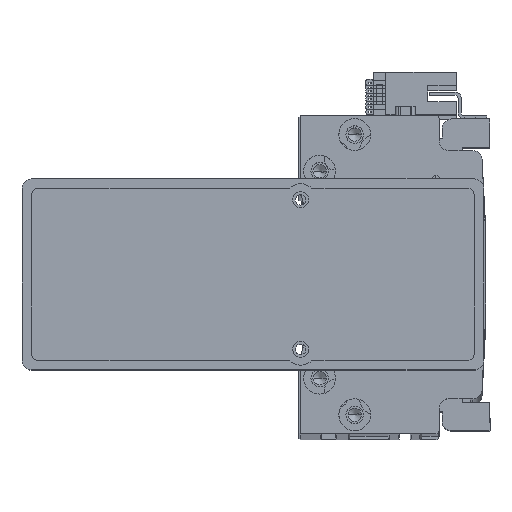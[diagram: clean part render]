
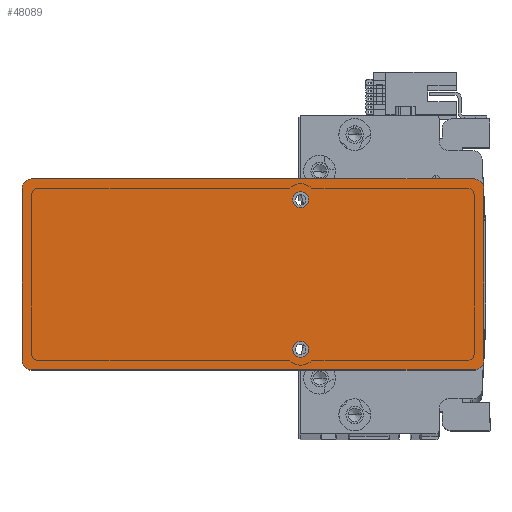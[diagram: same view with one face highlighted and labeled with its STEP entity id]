
A CAD part, top view. The second image highlights one B-rep face of the part: STEP entity #48089.
In plain terms, the highlighted planar face has unit normal (0, 0, 1) as drawn and (0, 0, -1) by its records, which use the part's own axes.
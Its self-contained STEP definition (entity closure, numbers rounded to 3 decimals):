
#384 = CARTESIAN_POINT ( 'NONE',  ( 69.5, -27., 0. ) ) ;
#604 = DIRECTION ( 'NONE',  ( 0., -1., 0. ) ) ;
#1273 = VECTOR ( 'NONE', #19549, 1000. ) ;
#1570 = AXIS2_PLACEMENT_3D ( 'NONE', #10724, #38092, #14631 ) ;
#1739 = DIRECTION ( 'NONE',  ( 0., 0., -1. ) ) ;
#1848 = CIRCLE ( 'NONE', #35471, 3. ) ;
#1947 = ORIENTED_EDGE ( 'NONE', *, *, #33359, .T. ) ;
#2590 = EDGE_CURVE ( 'NONE', #18987, #32767, #27750, .T. ) ;
#3014 = CIRCLE ( 'NONE', #24574, 2.5 ) ;
#3275 = FACE_BOUND ( 'NONE', #11251, .T. ) ;
#3332 = CARTESIAN_POINT ( 'NONE',  ( 12.5, 23.5, 0. ) ) ;
#3652 = EDGE_LOOP ( 'NONE', ( #37961, #8638, #6131, #27062, #38795, #27768, #35208, #1947 ) ) ;
#4281 = DIRECTION ( 'NONE',  ( 1., 0., 0. ) ) ;
#5688 = ORIENTED_EDGE ( 'NONE', *, *, #15037, .F. ) ;
#6131 = ORIENTED_EDGE ( 'NONE', *, *, #25252, .F. ) ;
#6701 = LINE ( 'NONE', #22102, #36599 ) ;
#6921 = VERTEX_POINT ( 'NONE', #47004 ) ;
#7384 = VERTEX_POINT ( 'NONE', #45757 ) ;
#8638 = ORIENTED_EDGE ( 'NONE', *, *, #9179, .T. ) ;
#8716 = VERTEX_POINT ( 'NONE', #43601 ) ;
#9046 = DIRECTION ( 'NONE',  ( 0., 0., -1. ) ) ;
#9179 = EDGE_CURVE ( 'NONE', #45157, #7384, #35297, .T. ) ;
#9380 = CIRCLE ( 'NONE', #36616, 3. ) ;
#10342 = EDGE_LOOP ( 'NONE', ( #5688, #46274 ) ) ;
#10724 = CARTESIAN_POINT ( 'NONE',  ( 15., 23.5, 0. ) ) ;
#11046 = VERTEX_POINT ( 'NONE', #25207 ) ;
#11251 = EDGE_LOOP ( 'NONE', ( #36202, #26867 ) ) ;
#11593 = CARTESIAN_POINT ( 'NONE',  ( -69.5, -27., 0. ) ) ;
#12287 = CARTESIAN_POINT ( 'NONE',  ( 0., 0., 0. ) ) ;
#12694 = DIRECTION ( 'NONE',  ( 0., 0., -1. ) ) ;
#12827 = CARTESIAN_POINT ( 'NONE',  ( -72.5, -27., 0. ) ) ;
#13613 = FACE_BOUND ( 'NONE', #10342, .T. ) ;
#14605 = CARTESIAN_POINT ( 'NONE',  ( 17.5, 23.5, 0. ) ) ;
#14631 = DIRECTION ( 'NONE',  ( -1., 0., 0. ) ) ;
#15037 = EDGE_CURVE ( 'NONE', #32767, #18987, #15246, .T. ) ;
#15246 = CIRCLE ( 'NONE', #16772, 2.5 ) ;
#15521 = DIRECTION ( 'NONE',  ( 1., 0., 0. ) ) ;
#15844 = DIRECTION ( 'NONE',  ( 0., 0., -1. ) ) ;
#16223 = DIRECTION ( 'NONE',  ( 1., 0., 0. ) ) ;
#16626 = CARTESIAN_POINT ( 'NONE',  ( 15., 23.5, 0. ) ) ;
#16772 = AXIS2_PLACEMENT_3D ( 'NONE', #16626, #43960, #20492 ) ;
#17074 = VECTOR ( 'NONE', #604, 1000. ) ;
#18262 = VERTEX_POINT ( 'NONE', #12827 ) ;
#18528 = CARTESIAN_POINT ( 'NONE',  ( 69.5, 30., 0. ) ) ;
#18593 = EDGE_CURVE ( 'NONE', #26243, #18262, #43995, .T. ) ;
#18987 = VERTEX_POINT ( 'NONE', #14605 ) ;
#19549 = DIRECTION ( 'NONE',  ( 0., 1., 0. ) ) ;
#20492 = DIRECTION ( 'NONE',  ( -1., 0., 0. ) ) ;
#21672 = CIRCLE ( 'NONE', #22822, 2.5 ) ;
#21961 = LINE ( 'NONE', #39049, #1273 ) ;
#22048 = CARTESIAN_POINT ( 'NONE',  ( -69.5, -30., 0. ) ) ;
#22102 = CARTESIAN_POINT ( 'NONE',  ( 72.5, 30., 0. ) ) ;
#22822 = AXIS2_PLACEMENT_3D ( 'NONE', #32382, #9046, #36375 ) ;
#23870 = PLANE ( 'NONE',  #34917 ) ;
#24574 = AXIS2_PLACEMENT_3D ( 'NONE', #36096, #12694, #40039 ) ;
#25016 = CARTESIAN_POINT ( 'NONE',  ( -69.5, 27., 0. ) ) ;
#25207 = CARTESIAN_POINT ( 'NONE',  ( -72.5, 27., 0. ) ) ;
#25252 = EDGE_CURVE ( 'NONE', #26243, #7384, #39984, .T. ) ;
#26243 = VERTEX_POINT ( 'NONE', #22048 ) ;
#26867 = ORIENTED_EDGE ( 'NONE', *, *, #41749, .F. ) ;
#27062 = ORIENTED_EDGE ( 'NONE', *, *, #18593, .T. ) ;
#27648 = DIRECTION ( 'NONE',  ( 0., 0., -1. ) ) ;
#27750 = CIRCLE ( 'NONE', #1570, 2.5 ) ;
#27768 = ORIENTED_EDGE ( 'NONE', *, *, #37501, .T. ) ;
#28071 = VERTEX_POINT ( 'NONE', #37213 ) ;
#28307 = AXIS2_PLACEMENT_3D ( 'NONE', #384, #27648, #4281 ) ;
#28881 = CARTESIAN_POINT ( 'NONE',  ( -69.5, 30., 0. ) ) ;
#28961 = DIRECTION ( 'NONE',  ( 1., 0., 0. ) ) ;
#29569 = VECTOR ( 'NONE', #39574, 1000. ) ;
#31021 = AXIS2_PLACEMENT_3D ( 'NONE', #11593, #38936, #15521 ) ;
#31511 = VERTEX_POINT ( 'NONE', #18528 ) ;
#31734 = CARTESIAN_POINT ( 'NONE',  ( -72.5, -30., 0. ) ) ;
#32382 = CARTESIAN_POINT ( 'NONE',  ( 15., -23.5, 0. ) ) ;
#32767 = VERTEX_POINT ( 'NONE', #3332 ) ;
#33021 = EDGE_CURVE ( 'NONE', #8716, #6921, #21672, .T. ) ;
#33129 = FACE_OUTER_BOUND ( 'NONE', #3652, .T. ) ;
#33359 = EDGE_CURVE ( 'NONE', #31511, #28071, #9380, .T. ) ;
#34917 = AXIS2_PLACEMENT_3D ( 'NONE', #12287, #39616, #16223 ) ;
#35208 = ORIENTED_EDGE ( 'NONE', *, *, #47382, .F. ) ;
#35297 = CIRCLE ( 'NONE', #28307, 3. ) ;
#35471 = AXIS2_PLACEMENT_3D ( 'NONE', #25016, #1739, #28961 ) ;
#36096 = CARTESIAN_POINT ( 'NONE',  ( 15., -23.5, 0. ) ) ;
#36202 = ORIENTED_EDGE ( 'NONE', *, *, #33021, .F. ) ;
#36375 = DIRECTION ( 'NONE',  ( -1., 0., 0. ) ) ;
#36599 = VECTOR ( 'NONE', #49532, 1000. ) ;
#36616 = AXIS2_PLACEMENT_3D ( 'NONE', #39268, #15844, #43195 ) ;
#37213 = CARTESIAN_POINT ( 'NONE',  ( 72.5, 27., 0. ) ) ;
#37501 = EDGE_CURVE ( 'NONE', #11046, #43386, #1848, .T. ) ;
#37961 = ORIENTED_EDGE ( 'NONE', *, *, #47138, .F. ) ;
#38092 = DIRECTION ( 'NONE',  ( 0., 0., -1. ) ) ;
#38795 = ORIENTED_EDGE ( 'NONE', *, *, #46777, .F. ) ;
#38936 = DIRECTION ( 'NONE',  ( 0., 0., -1. ) ) ;
#39049 = CARTESIAN_POINT ( 'NONE',  ( 72.5, -30., 0. ) ) ;
#39268 = CARTESIAN_POINT ( 'NONE',  ( 69.5, 27., 0. ) ) ;
#39574 = DIRECTION ( 'NONE',  ( 1., 0., 0. ) ) ;
#39616 = DIRECTION ( 'NONE',  ( 0., 0., 1. ) ) ;
#39984 = LINE ( 'NONE', #47340, #29569 ) ;
#40039 = DIRECTION ( 'NONE',  ( -1., 0., 0. ) ) ;
#41749 = EDGE_CURVE ( 'NONE', #6921, #8716, #3014, .T. ) ;
#43195 = DIRECTION ( 'NONE',  ( 1., 0., 0. ) ) ;
#43386 = VERTEX_POINT ( 'NONE', #28881 ) ;
#43601 = CARTESIAN_POINT ( 'NONE',  ( 12.5, -23.5, 0. ) ) ;
#43906 = CARTESIAN_POINT ( 'NONE',  ( 72.5, -27., 0. ) ) ;
#43960 = DIRECTION ( 'NONE',  ( 0., 0., -1. ) ) ;
#43995 = CIRCLE ( 'NONE', #31021, 3. ) ;
#45157 = VERTEX_POINT ( 'NONE', #43906 ) ;
#45757 = CARTESIAN_POINT ( 'NONE',  ( 69.5, -30., 0. ) ) ;
#46274 = ORIENTED_EDGE ( 'NONE', *, *, #2590, .F. ) ;
#46777 = EDGE_CURVE ( 'NONE', #11046, #18262, #47055, .T. ) ;
#47004 = CARTESIAN_POINT ( 'NONE',  ( 17.5, -23.5, 0. ) ) ;
#47055 = LINE ( 'NONE', #31734, #17074 ) ;
#47138 = EDGE_CURVE ( 'NONE', #45157, #28071, #21961, .T. ) ;
#47340 = CARTESIAN_POINT ( 'NONE',  ( 72.5, -30., 0. ) ) ;
#47382 = EDGE_CURVE ( 'NONE', #31511, #43386, #6701, .T. ) ;
#48089 = ADVANCED_FACE ( 'NONE', ( #13613, #3275, #33129 ), #23870, .F. ) ;
#49532 = DIRECTION ( 'NONE',  ( -1., 0., 0. ) ) ;
